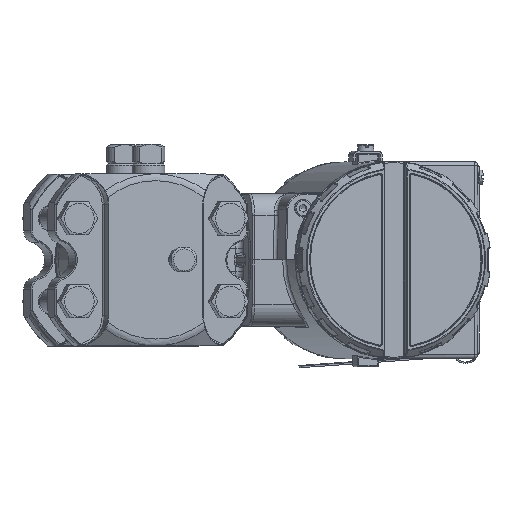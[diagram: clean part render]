
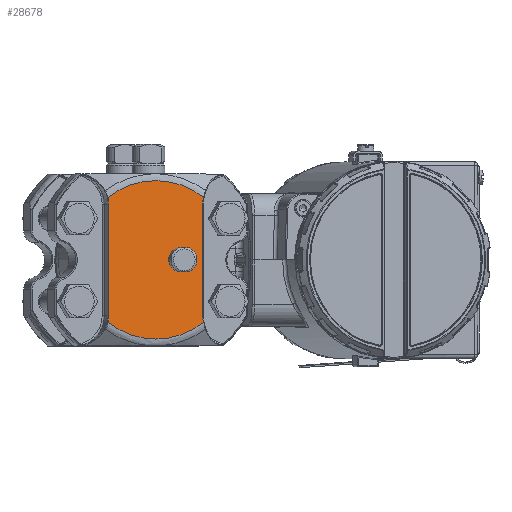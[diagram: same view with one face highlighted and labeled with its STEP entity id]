
A CAD part, top view. The second image highlights one B-rep face of the part: STEP entity #28678.
In plain terms, the highlighted planar face has unit normal (0.201, 0, 0.98) as drawn and (0, 0, 1) by its records, which use the part's own axes.
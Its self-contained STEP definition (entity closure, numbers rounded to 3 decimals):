
#535=FACE_BOUND('',#4463,.T.);
#1912=PLANE('',#31420);
#2506=FACE_OUTER_BOUND('',#4462,.T.);
#4462=EDGE_LOOP('',(#20398,#20399,#20400,#20401,#20402,#20403,#20404,#20405));
#4463=EDGE_LOOP('',(#20406,#20407));
#6224=LINE('',#46137,#7274);
#6234=LINE('',#46514,#7284);
#7274=VECTOR('',#35367,10.);
#7284=VECTOR('',#35463,10.);
#8491=CIRCLE('',#31120,13.3);
#8495=CIRCLE('',#31126,13.3);
#8522=CIRCLE('',#31163,13.3);
#8526=CIRCLE('',#31169,13.3);
#8635=CIRCLE('',#31361,5.);
#8636=CIRCLE('',#31362,5.);
#8668=CIRCLE('',#31418,33.424);
#8670=CIRCLE('',#31421,33.424);
#11898=VERTEX_POINT('',#46117);
#11900=VERTEX_POINT('',#46129);
#11902=VERTEX_POINT('',#46135);
#11904=VERTEX_POINT('',#46141);
#11938=VERTEX_POINT('',#46494);
#11940=VERTEX_POINT('',#46506);
#11942=VERTEX_POINT('',#46512);
#11944=VERTEX_POINT('',#46518);
#12083=VERTEX_POINT('',#47438);
#12084=VERTEX_POINT('',#47439);
#14769=EDGE_CURVE('',#11900,#11898,#8491,.T.);
#14772=EDGE_CURVE('',#11902,#11900,#6224,.T.);
#14775=EDGE_CURVE('',#11904,#11902,#8495,.T.);
#14829=EDGE_CURVE('',#11940,#11938,#8522,.T.);
#14832=EDGE_CURVE('',#11942,#11940,#6234,.T.);
#14835=EDGE_CURVE('',#11944,#11942,#8526,.T.);
#15066=EDGE_CURVE('',#12083,#12084,#8635,.T.);
#15067=EDGE_CURVE('',#12084,#12083,#8636,.T.);
#15109=EDGE_CURVE('',#11944,#11898,#8668,.T.);
#15111=EDGE_CURVE('',#11904,#11938,#8670,.T.);
#20398=ORIENTED_EDGE('',*,*,#14775,.F.);
#20399=ORIENTED_EDGE('',*,*,#15111,.T.);
#20400=ORIENTED_EDGE('',*,*,#14829,.F.);
#20401=ORIENTED_EDGE('',*,*,#14832,.F.);
#20402=ORIENTED_EDGE('',*,*,#14835,.F.);
#20403=ORIENTED_EDGE('',*,*,#15109,.T.);
#20404=ORIENTED_EDGE('',*,*,#14769,.F.);
#20405=ORIENTED_EDGE('',*,*,#14772,.F.);
#20406=ORIENTED_EDGE('',*,*,#15066,.T.);
#20407=ORIENTED_EDGE('',*,*,#15067,.T.);
#28678=ADVANCED_FACE('',(#2506,#535),#1912,.T.);
#31120=AXIS2_PLACEMENT_3D('',#46131,#35359,#35360);
#31126=AXIS2_PLACEMENT_3D('',#46143,#35373,#35374);
#31163=AXIS2_PLACEMENT_3D('',#46508,#35455,#35456);
#31169=AXIS2_PLACEMENT_3D('',#46520,#35469,#35470);
#31361=AXIS2_PLACEMENT_3D('',#47440,#35933,#35934);
#31362=AXIS2_PLACEMENT_3D('',#47441,#35935,#35936);
#31418=AXIS2_PLACEMENT_3D('',#47529,#36057,#36058);
#31420=AXIS2_PLACEMENT_3D('',#47531,#36061,#36062);
#31421=AXIS2_PLACEMENT_3D('',#47532,#36063,#36064);
#35359=DIRECTION('center_axis',(0.,0.,1.));
#35360=DIRECTION('ref_axis',(-0.104,0.995,0.));
#35367=DIRECTION('',(-1.,0.,0.));
#35373=DIRECTION('center_axis',(0.,0.,1.));
#35374=DIRECTION('ref_axis',(0.104,0.995,0.));
#35455=DIRECTION('center_axis',(0.,0.,1.));
#35456=DIRECTION('ref_axis',(0.104,-0.995,0.));
#35463=DIRECTION('',(1.,0.,0.));
#35469=DIRECTION('center_axis',(0.,0.,1.));
#35470=DIRECTION('ref_axis',(-0.104,-0.995,0.));
#35933=DIRECTION('center_axis',(0.,0.,-1.));
#35934=DIRECTION('ref_axis',(1.,0.,0.));
#35935=DIRECTION('center_axis',(0.,0.,-1.));
#35936=DIRECTION('ref_axis',(1.,0.,0.));
#36057=DIRECTION('center_axis',(0.,0.,1.));
#36058=DIRECTION('ref_axis',(1.,0.,0.));
#36061=DIRECTION('center_axis',(0.,0.,1.));
#36062=DIRECTION('ref_axis',(1.,0.,0.));
#36063=DIRECTION('center_axis',(0.,0.,1.));
#36064=DIRECTION('ref_axis',(1.,0.,0.));
#46117=CARTESIAN_POINT('',(-26.385,-20.517,31.5));
#46129=CARTESIAN_POINT('',(-23.5,-20.2,31.5));
#46131=CARTESIAN_POINT('Origin',(-23.5,-33.5,31.5));
#46135=CARTESIAN_POINT('',(23.5,-20.2,31.5));
#46137=CARTESIAN_POINT('',(-11.75,-20.2,31.5));
#46141=CARTESIAN_POINT('',(26.385,-20.517,31.5));
#46143=CARTESIAN_POINT('Origin',(23.5,-33.5,31.5));
#46494=CARTESIAN_POINT('',(26.385,20.517,31.5));
#46506=CARTESIAN_POINT('',(23.5,20.2,31.5));
#46508=CARTESIAN_POINT('Origin',(23.5,33.5,31.5));
#46512=CARTESIAN_POINT('',(-23.5,20.2,31.5));
#46514=CARTESIAN_POINT('',(11.75,20.2,31.5));
#46518=CARTESIAN_POINT('',(-26.385,20.517,31.5));
#46520=CARTESIAN_POINT('Origin',(-23.5,33.5,31.5));
#47438=CARTESIAN_POINT('',(5.,10.5,31.5));
#47439=CARTESIAN_POINT('',(-5.,10.5,31.5));
#47440=CARTESIAN_POINT('Origin',(0.,10.5,31.5));
#47441=CARTESIAN_POINT('Origin',(0.,10.5,31.5));
#47529=CARTESIAN_POINT('Origin',(0.,0.,31.5));
#47531=CARTESIAN_POINT('Origin',(0.,0.,
31.5));
#47532=CARTESIAN_POINT('Origin',(0.,0.,31.5));
